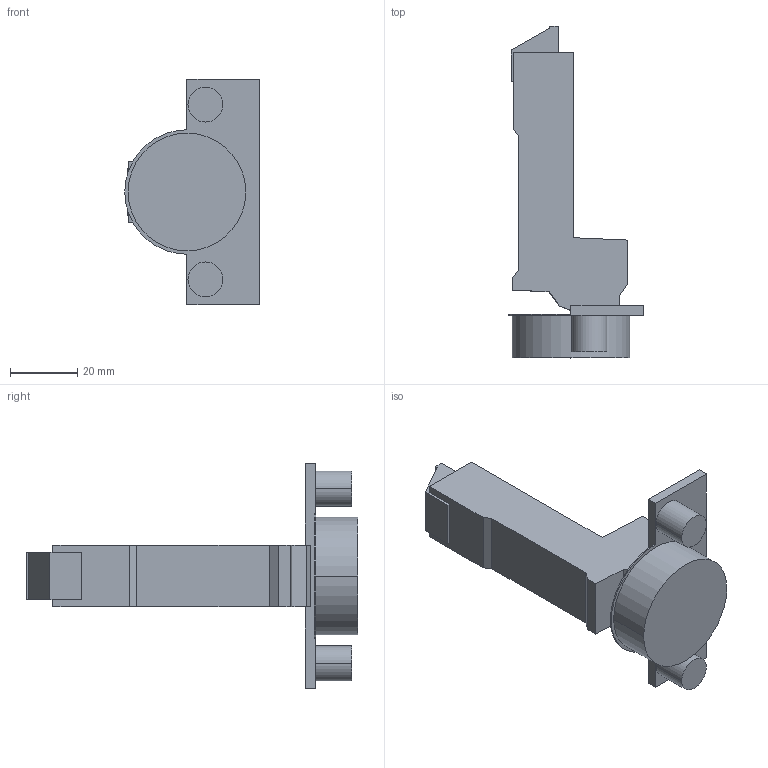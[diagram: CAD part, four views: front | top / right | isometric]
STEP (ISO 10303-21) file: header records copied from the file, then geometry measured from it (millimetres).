
FILE_DESCRIPTION (( 'STEP AP214' ), '1' );
FILE_NAME ('Scharnier T Click-on 95° H_BB, K19_Dübel.step', '2018-10-02T12:12:03', ( '' ), ( '' ), 'SwSTEP 2.0', 'SolidWorks 2017', '' );
FILE_SCHEMA (( 'AUTOMOTIVE_DESIGN' ));
Length unit declared in the file: millimetre
Products named in the file (1): Scharnier T Click-on 95° H_BB, K19_Dübel
Bounding box: 40 x 98.7 x 67 mm (x, y, z)
Volume: 47362 mm3; surface area: 13508.3 mm2
Topology: 1 solids, 1 shells, 59 faces, 147 edges, 98 vertices
Faces by surface type: plane 41, cylinder 18
Entity records: 1791 total; most frequent: CARTESIAN_POINT 305, DIRECTION 303, ORIENTED_EDGE 294, EDGE_CURVE 147, LINE 111, VECTOR 111, VERTEX_POINT 98, AXIS2_PLACEMENT_3D 96
